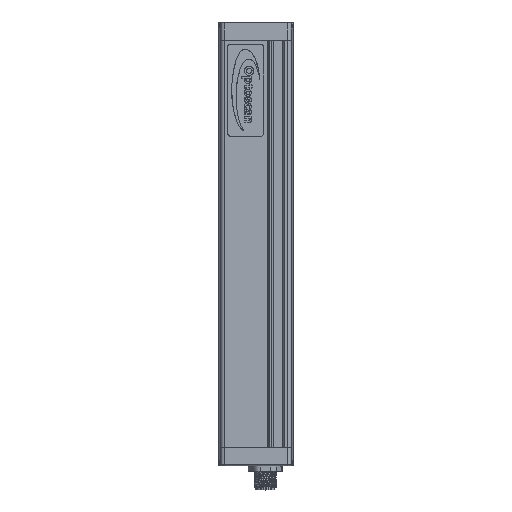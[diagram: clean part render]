
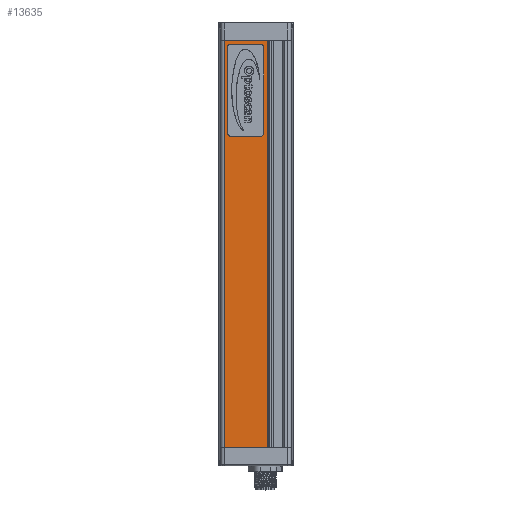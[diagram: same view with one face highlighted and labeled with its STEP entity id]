
A CAD part, top view. The second image highlights one B-rep face of the part: STEP entity #13635.
In plain terms, the highlighted planar face has unit normal (0, 0, 1).
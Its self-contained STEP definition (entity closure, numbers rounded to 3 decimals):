
#165=FACE_BOUND('',#2115,.T.);
#475=CIRCLE('',#14507,1.49);
#476=CIRCLE('',#14508,1.49);
#477=CIRCLE('',#14509,1.49);
#478=CIRCLE('',#14510,1.49);
#992=PLANE('',#14506);
#1357=FACE_OUTER_BOUND('',#2114,.T.);
#2114=EDGE_LOOP('',(#9142,#9143,#9144,#9145));
#2115=EDGE_LOOP('',(#9146,#9147,#9148,#9149,#9150,#9151,#9152,#9153));
#3341=LINE('',#20186,#4403);
#3353=LINE('',#20220,#4415);
#3367=LINE('',#20257,#4429);
#3368=LINE('',#20258,#4430);
#3369=LINE('',#20263,#4431);
#3370=LINE('',#20267,#4432);
#3371=LINE('',#20271,#4433);
#3372=LINE('',#20274,#4434);
#4403=VECTOR('',#16079,10.);
#4415=VECTOR('',#16103,10.);
#4429=VECTOR('',#16131,10.);
#4430=VECTOR('',#16132,10.);
#4431=VECTOR('',#16135,10.);
#4432=VECTOR('',#16138,10.);
#4433=VECTOR('',#16141,10.);
#4434=VECTOR('',#16144,10.);
#5562=VERTEX_POINT('',#20183);
#5563=VERTEX_POINT('',#20185);
#5578=VERTEX_POINT('',#20217);
#5579=VERTEX_POINT('',#20219);
#5596=VERTEX_POINT('',#20259);
#5597=VERTEX_POINT('',#20260);
#5598=VERTEX_POINT('',#20262);
#5599=VERTEX_POINT('',#20264);
#5600=VERTEX_POINT('',#20266);
#5601=VERTEX_POINT('',#20268);
#5602=VERTEX_POINT('',#20270);
#5603=VERTEX_POINT('',#20272);
#6916=EDGE_CURVE('',#5562,#5563,#3341,.T.);
#6932=EDGE_CURVE('',#5579,#5578,#3353,.T.);
#6950=EDGE_CURVE('',#5578,#5563,#3367,.T.);
#6951=EDGE_CURVE('',#5579,#5562,#3368,.T.);
#6952=EDGE_CURVE('',#5596,#5597,#475,.T.);
#6953=EDGE_CURVE('',#5598,#5596,#3369,.T.);
#6954=EDGE_CURVE('',#5599,#5598,#476,.T.);
#6955=EDGE_CURVE('',#5600,#5599,#3370,.T.);
#6956=EDGE_CURVE('',#5601,#5600,#477,.T.);
#6957=EDGE_CURVE('',#5602,#5601,#3371,.T.);
#6958=EDGE_CURVE('',#5603,#5602,#478,.T.);
#6959=EDGE_CURVE('',#5597,#5603,#3372,.T.);
#9142=ORIENTED_EDGE('',*,*,#6932,.T.);
#9143=ORIENTED_EDGE('',*,*,#6950,.T.);
#9144=ORIENTED_EDGE('',*,*,#6916,.F.);
#9145=ORIENTED_EDGE('',*,*,#6951,.F.);
#9146=ORIENTED_EDGE('',*,*,#6952,.F.);
#9147=ORIENTED_EDGE('',*,*,#6953,.F.);
#9148=ORIENTED_EDGE('',*,*,#6954,.F.);
#9149=ORIENTED_EDGE('',*,*,#6955,.F.);
#9150=ORIENTED_EDGE('',*,*,#6956,.F.);
#9151=ORIENTED_EDGE('',*,*,#6957,.F.);
#9152=ORIENTED_EDGE('',*,*,#6958,.F.);
#9153=ORIENTED_EDGE('',*,*,#6959,.F.);
#13635=ADVANCED_FACE('',(#1357,#165),#992,.T.);
#14506=AXIS2_PLACEMENT_3D('',#20256,#16129,#16130);
#14507=AXIS2_PLACEMENT_3D('',#20261,#16133,#16134);
#14508=AXIS2_PLACEMENT_3D('',#20265,#16136,#16137);
#14509=AXIS2_PLACEMENT_3D('',#20269,#16139,#16140);
#14510=AXIS2_PLACEMENT_3D('',#20273,#16142,#16143);
#16079=DIRECTION('',(1.,0.,0.));
#16103=DIRECTION('',(1.,0.,0.));
#16129=DIRECTION('center_axis',(0.,0.,
1.));
#16130=DIRECTION('ref_axis',(1.,0.,0.));
#16131=DIRECTION('',(0.,1.,0.));
#16132=DIRECTION('',(0.,1.,0.));
#16133=DIRECTION('center_axis',(0.,0.,
1.));
#16134=DIRECTION('ref_axis',(0.707,0.707,0.));
#16135=DIRECTION('',(0.,1.,0.));
#16136=DIRECTION('center_axis',(0.,0.,
1.));
#16137=DIRECTION('ref_axis',(0.707,-0.707,0.));
#16138=DIRECTION('',(1.,0.,0.));
#16139=DIRECTION('center_axis',(0.,0.,
1.));
#16140=DIRECTION('ref_axis',(-0.707,-0.707,0.));
#16141=DIRECTION('',(0.,-1.,0.));
#16142=DIRECTION('center_axis',(0.,0.,
1.));
#16143=DIRECTION('ref_axis',(-0.707,0.707,0.));
#16144=DIRECTION('',(-1.,0.,0.));
#20183=CARTESIAN_POINT('',(-12.565,220.,1.277));
#20185=CARTESIAN_POINT('',(10.736,220.,1.277));
#20186=CARTESIAN_POINT('',(-12.565,220.,1.277));
#20217=CARTESIAN_POINT('',(10.736,0.,1.277));
#20219=CARTESIAN_POINT('',(-12.565,0.,1.277));
#20220=CARTESIAN_POINT('',(-12.565,0.,1.277));
#20256=CARTESIAN_POINT('Origin',(-12.565,0.,
1.277));
#20257=CARTESIAN_POINT('',(10.736,0.,1.277));
#20258=CARTESIAN_POINT('',(-12.565,0.,1.277));
#20259=CARTESIAN_POINT('',(8.576,216.5,1.277));
#20260=CARTESIAN_POINT('',(7.086,217.99,1.277));
#20261=CARTESIAN_POINT('Origin',(7.086,216.5,1.277));
#20262=CARTESIAN_POINT('',(8.576,169.7,1.277));
#20263=CARTESIAN_POINT('',(8.576,181.4,1.277));
#20264=CARTESIAN_POINT('',(7.086,168.21,1.277));
#20265=CARTESIAN_POINT('Origin',(7.086,169.7,1.277));
#20266=CARTESIAN_POINT('',(-9.314,168.21,1.277));
#20267=CARTESIAN_POINT('',(-5.214,168.21,1.277));
#20268=CARTESIAN_POINT('',(-10.804,169.7,1.277));
#20269=CARTESIAN_POINT('Origin',(-9.314,169.7,1.277));
#20270=CARTESIAN_POINT('',(-10.804,216.5,1.277));
#20271=CARTESIAN_POINT('',(-10.804,204.8,1.277));
#20272=CARTESIAN_POINT('',(-9.314,217.99,1.277));
#20273=CARTESIAN_POINT('Origin',(-9.314,216.5,1.277));
#20274=CARTESIAN_POINT('',(2.986,217.99,1.277));
